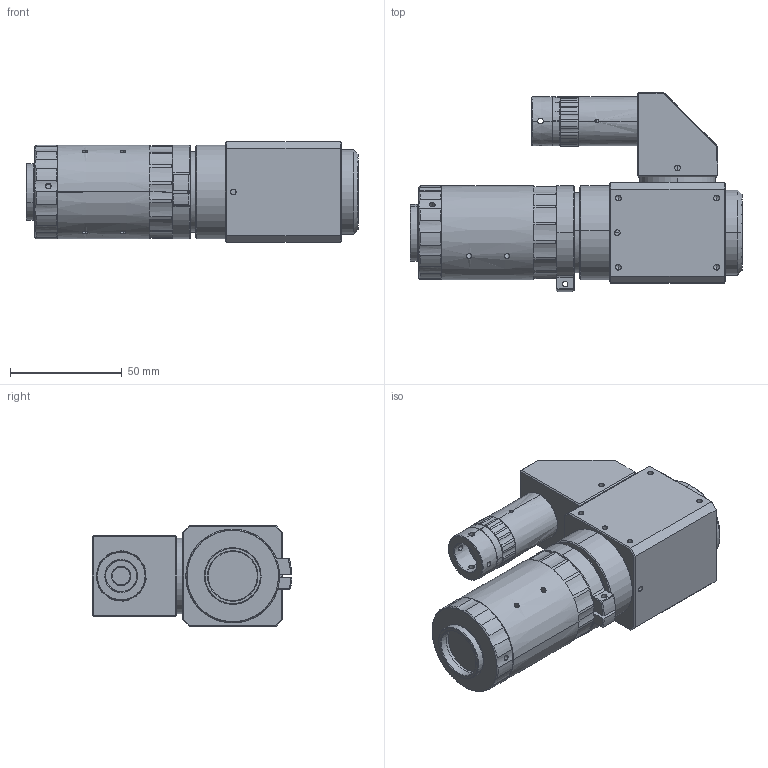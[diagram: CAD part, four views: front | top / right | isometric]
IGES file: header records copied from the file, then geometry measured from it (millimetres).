
Start section: SolidWorks IGES file using analytic representation for surfaces
Global section: file name: C:\Users\gc\Desktop\未完成工作堆放区\0735\发客户3D\TUL200-0735CL-111.IGS; native system: SolidWorks 2017; preprocessor: SolidWorks 2017; author: gc; date: 231107.180807; units: millimetre
Bounding box: 148.81 x 89.49 x 45 mm (x, y, z)
Surface area: 48674.5 mm2 (no closed solid volume)
Topology: 0 solids, 0 shells, 890 faces, 12468 edges, 12440 vertices
Faces by surface type: revolution 566, bspline 324
